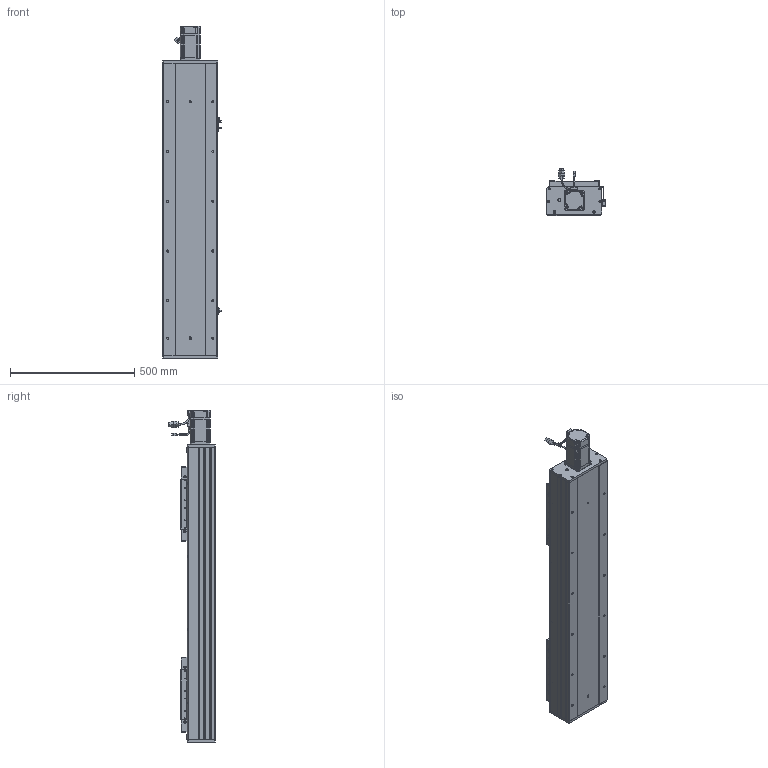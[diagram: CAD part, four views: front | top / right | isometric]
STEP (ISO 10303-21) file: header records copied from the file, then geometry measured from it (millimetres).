
FILE_DESCRIPTION (( 'STEP AP203' ), '1' );
FILE_NAME ('RY220F-L2525-300-MK.SLDASM_750.step', '2022-07-04T01:03:33', ( '' ), ( '' ), 'SwSTEP 2.0', 'SolidWorks 2016', '' );
FILE_SCHEMA (( 'CONFIG_CONTROL_DESIGN' ));
Length unit declared in the file: millimetre
Products named in the file (15): RY220F-滅鳥奻裔; RY220F綴裔啣; RY220F臏賑釱25-32佪裝; RY220F-祥凄詩湍-MK-300_750; RY220电机支撑座FK20（PCD90M6）; 滅袉蝶18-24; RY220F-672覜茼んえ; RY220Fヶ裔啣; 怢湛750W_ECMA-CX0807ES; RY220F-詩湍揤踡輸; RY220F-L2525-300-MK.SLDASM_750; RY220F菁釱MK-300_750; RY220F-奻裔啣-300_750; 覜茼ん672; 滅袉蝶18-20
Assembly tree (23 placements, depth 2):
  RY220F-L2525-300-MK.SLDASM_750
    RY220F菁釱MK-300_750
    RY220电机支撑座FK20（PCD90M6）
    RY220F-奻裔啣-300_750  x2
    怢湛750W_ECMA-CX0807ES
    RY220F臏賑釱25-32佪裝  x2
    RY220F-滅鳥奻裔  x2
    滅袉蝶18-20
    滅袉蝶18-24  x3
    RY220Fヶ裔啣
    RY220F綴裔啣
    RY220F-祥凄詩湍-MK-300_750
    RY220F-詩湍揤踡輸  x2
    覜茼ん672  x3
    RY220F-672覜茼んえ  x2
Bounding box: 233.7 x 187.27 x 1334.3 mm (x, y, z)
Volume: 13195091.3 mm3; surface area: 3223037.6 mm2
Topology: 24 solids, 24 shells, 2714 faces, 7442 edges, 4618 vertices
Faces by surface type: cylinder 1222, plane 1030, cone 399, bspline 37, sphere 16, torus 10
Entity records: 67642 total; most frequent: CARTESIAN_POINT 18270, ORIENTED_EDGE 10018, DIRECTION 9702, EDGE_CURVE 5009, AXIS2_PLACEMENT_3D 3443, VERTEX_POINT 3258, LINE 2816, VECTOR 2816
